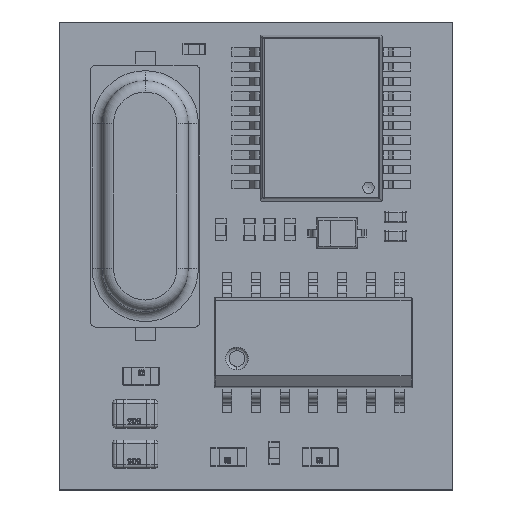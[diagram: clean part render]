
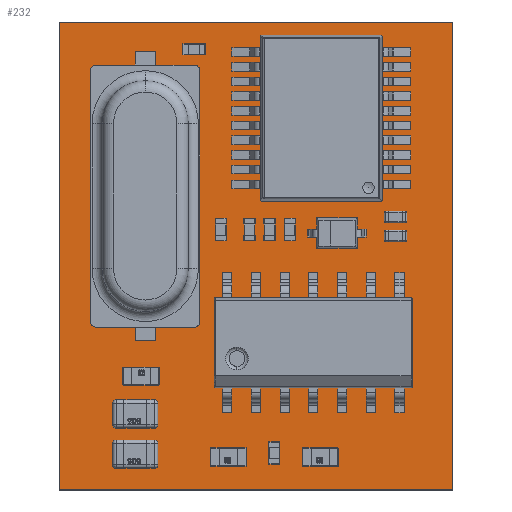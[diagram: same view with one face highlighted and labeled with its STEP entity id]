
A CAD part, top view. The second image highlights one B-rep face of the part: STEP entity #232.
In plain terms, the highlighted planar face has unit normal (0, 0, 1).
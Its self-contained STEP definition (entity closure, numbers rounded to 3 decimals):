
#103 = VERTEX_POINT('',#104);
#104 = CARTESIAN_POINT('',(89.758,41.596,0.411));
#110 = EDGE_CURVE('',#103,#111,#113,.T.);
#111 = VERTEX_POINT('',#112);
#112 = CARTESIAN_POINT('',(107.158,41.596,0.411));
#113 = LINE('',#114,#115);
#114 = CARTESIAN_POINT('',(89.758,41.596,0.411));
#115 = VECTOR('',#116,1.);
#116 = DIRECTION('',(1.,0.,0.));
#141 = EDGE_CURVE('',#111,#142,#144,.T.);
#142 = VERTEX_POINT('',#143);
#143 = CARTESIAN_POINT('',(107.158,62.296,0.411));
#144 = LINE('',#145,#146);
#145 = CARTESIAN_POINT('',(107.158,41.596,0.411));
#146 = VECTOR('',#147,1.);
#147 = DIRECTION('',(0.,1.,0.));
#172 = EDGE_CURVE('',#142,#173,#175,.T.);
#173 = VERTEX_POINT('',#174);
#174 = CARTESIAN_POINT('',(89.758,62.296,0.411));
#175 = LINE('',#176,#177);
#176 = CARTESIAN_POINT('',(107.158,62.296,0.411));
#177 = VECTOR('',#178,1.);
#178 = DIRECTION('',(-1.,0.,0.));
#203 = EDGE_CURVE('',#173,#103,#204,.T.);
#204 = LINE('',#205,#206);
#205 = CARTESIAN_POINT('',(89.758,62.296,0.411));
#206 = VECTOR('',#207,1.);
#207 = DIRECTION('',(0.,-1.,0.));
#232 = ADVANCED_FACE('',(#233),#239,.F.);
#233 = FACE_BOUND('',#234,.T.);
#234 = EDGE_LOOP('',(#235,#236,#237,#238));
#235 = ORIENTED_EDGE('',*,*,#110,.T.);
#236 = ORIENTED_EDGE('',*,*,#141,.T.);
#237 = ORIENTED_EDGE('',*,*,#172,.T.);
#238 = ORIENTED_EDGE('',*,*,#203,.T.);
#239 = PLANE('',#240);
#240 = AXIS2_PLACEMENT_3D('',#241,#242,#243);
#241 = CARTESIAN_POINT('',(89.758,41.596,0.411));
#242 = DIRECTION('',(0.,0.,-1.));
#243 = DIRECTION('',(-1.,0.,0.));
